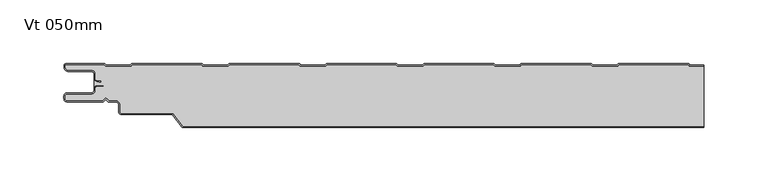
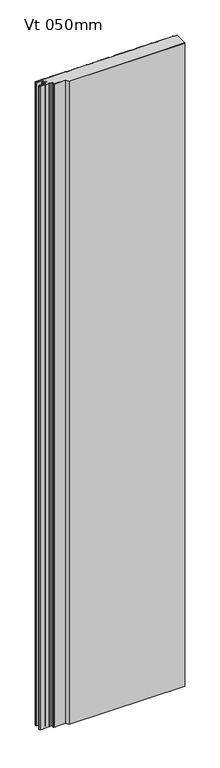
"""IFC4 building model written with IfcOpenShell, lengths in millimetres: plate geometry, KIP-MEX-KW-R19-CP-Vt-KW1_SL : Vt 050mm."""

import ifcopenshell
import ifcopenshell.guid

model = None  # the IFC model being written
_history = None  # IfcOwnerHistory: only IFC2X3 demands one
_inside = {}  # id of a spatial element -> (the spatial element, [elements in it])
_under = {}  # id of a project, library or spatial element -> (it, [spatial elements below it])
_declared = {}  # id of a project -> (the project, [libraries it declares])
_typed = {}  # id of a type object -> (the type object, [elements of that type])
_made_of = {}  # id of a material, layer set ... -> (it, [elements and type objects made of it])


def new_model(schema):
    """Start an empty IFC model of exactly this schema.

    Asked for "IFC4X3", IfcOpenShell would pick the latest addendum, in which some entities
    have other attributes; the version numbers below select the first issue.
    IFC2X3 requires an IfcOwnerHistory on every rooted entity: one is made here for all.
    """
    global model, _history
    if schema == "IFC4X3":
        model = ifcopenshell.file(schema_version=(4, 3, 0, 0))
    else:
        model = ifcopenshell.file(schema=schema)
    _inside.clear()
    _under.clear()
    _declared.clear()
    _typed.clear()
    _made_of.clear()
    _history = None
    if model.schema == "IFC2X3":
        org = make("IfcOrganization", Name="unknown")
        user = make(
            "IfcPersonAndOrganization",
            ThePerson=make("IfcPerson", FamilyName="unknown"),
            TheOrganization=org,
        )
        app = make(
            "IfcApplication",
            ApplicationDeveloper=org,
            Version="unknown",
            ApplicationFullName="unknown",
            ApplicationIdentifier="unknown",
        )
        _history = make(
            "IfcOwnerHistory",
            OwningUser=user,
            OwningApplication=app,
            ChangeAction="ADDED",
            CreationDate=0,
        )
    return model


def make(cls, **values):
    """One entity of the class cls with the attributes given. An attribute that is None is left unset."""
    return model.create_entity(
        cls, **{name: value for name, value in values.items() if value is not None}
    )


def rooted(cls, **values):
    """An entity with a GlobalId (a new one), such as an element, a storey or a relation."""
    return make(cls, GlobalId=ifcopenshell.guid.new(), OwnerHistory=_history, **values)


def si_unit(unit_type, name, prefix=None):
    """IfcSIUnit, for example si_unit("LENGTHUNIT", "METRE", prefix="MILLI")."""
    return make("IfcSIUnit", UnitType=unit_type, Prefix=prefix, Name=name)


def assignment(units):
    """IfcUnitAssignment: the units of a project."""
    return None if units is None else make("IfcUnitAssignment", Units=units)


def point(xyz):
    """IfcCartesianPoint."""
    return None if xyz is None else make("IfcCartesianPoint", Coordinates=xyz)


def direction(xyz):
    """IfcDirection."""
    return None if xyz is None else make("IfcDirection", DirectionRatios=xyz)


def frame(location, z_axis=None, x_axis=None):
    """IfcAxis2Placement3D, a coordinate frame: its origin and axes. An axis left out is left unset."""
    return make(
        "IfcAxis2Placement3D",
        Location=point(location),
        Axis=direction(z_axis),
        RefDirection=direction(x_axis),
    )


def frame_2d(location, x_axis=None):
    """IfcAxis2Placement2D, a coordinate frame in the plane: its origin and x axis."""
    return make(
        "IfcAxis2Placement2D", Location=point(location), RefDirection=direction(x_axis)
    )


def origin():
    """The frame at (0, 0, 0) with its axes left unset."""
    return frame((0.0, 0.0, 0.0))


def origin_with_axes():
    """The frame at (0, 0, 0) with the z axis (0, 0, 1) and the x axis (1, 0, 0) written out."""
    return frame((0.0, 0.0, 0.0), z_axis=(0.0, 0.0, 1.0), x_axis=(1.0, 0.0, 0.0))


def place(relative_to, where):
    """IfcLocalPlacement: puts the frame where relative to a parent placement (None: the world)."""
    return make(
        "IfcLocalPlacement", PlacementRelTo=relative_to, RelativePlacement=where
    )


def context(
    kind, dimensions, precision=None, world=None, true_north=None, identifier=None
):
    """IfcGeometricRepresentationContext, for example the 3D "Model" context."""
    return make(
        "IfcGeometricRepresentationContext",
        ContextIdentifier=identifier,
        ContextType=kind,
        CoordinateSpaceDimension=dimensions,
        Precision=precision,
        WorldCoordinateSystem=world,
        TrueNorth=true_north,
    )


def project(units=None, contexts=None):
    """IfcProject with its units and contexts."""
    return rooted(
        "IfcProject",
        Name="project",
        RepresentationContexts=contexts,
        UnitsInContext=assignment(units),
    )


def spatial(cls, under=None, at=None, **own):
    """A site, building, storey or space (cls), placed at a placement, below another one or the project."""
    s = rooted(cls, ObjectPlacement=at, **own)
    if under is not None:
        _under.setdefault(under.id(), (under, []))[1].append(s)
    return s


def polyline(points):
    """IfcPolyline through the points."""
    return make("IfcPolyline", Points=[point(p) for p in points])


def circle_curve(where, radius):
    """IfcCircle in the frame where."""
    return make("IfcCircle", Position=where, Radius=radius)


def trimmed(basis, trim1, trim2, sense, master):
    """IfcTrimmedCurve: the piece of a basis curve between two trims."""
    return make(
        "IfcTrimmedCurve",
        BasisCurve=basis,
        Trim1=trim1,
        Trim2=trim2,
        SenseAgreement=sense,
        MasterRepresentation=master,
    )


def segment(curve, same_sense, transition):
    """IfcCompositeCurveSegment."""
    return make(
        "IfcCompositeCurveSegment",
        Transition=transition,
        SameSense=same_sense,
        ParentCurve=curve,
    )


def composite_curve(segments, self_intersect=None):
    """IfcCompositeCurve: segments joined end to end."""
    return make("IfcCompositeCurve", Segments=segments, SelfIntersect=self_intersect)


def outline(outer, holes=None, kind="AREA"):
    """IfcArbitraryClosedProfileDef: a profile drawn as a closed curve; with holes, ...WithVoids."""
    if holes is None:
        return make("IfcArbitraryClosedProfileDef", ProfileType=kind, OuterCurve=outer)
    return make(
        "IfcArbitraryProfileDefWithVoids",
        ProfileType=kind,
        OuterCurve=outer,
        InnerCurves=holes,
    )


def extrude(swept, where, along, depth):
    """IfcExtrudedAreaSolid: the profile swept, set in the frame where, extruded along a direction by depth."""
    return make(
        "IfcExtrudedAreaSolid",
        SweptArea=swept,
        Position=where,
        ExtrudedDirection=direction(along),
        Depth=depth,
    )


def shape(context_of_items, identifier, shape_type, items):
    """IfcShapeRepresentation: the items that make up one representation, for example the "Body"."""
    return make(
        "IfcShapeRepresentation",
        ContextOfItems=context_of_items,
        RepresentationIdentifier=identifier,
        RepresentationType=shape_type,
        Items=items,
    )


def source(mapping_origin, context_of_items, identifier, shape_type, items):
    """IfcRepresentationMap: a shape defined once, which mapped items show again and again."""
    return make(
        "IfcRepresentationMap",
        MappingOrigin=mapping_origin,
        MappedRepresentation=shape(context_of_items, identifier, shape_type, items),
    )


def transform(
    local_origin,
    x_axis=None,
    y_axis=None,
    z_axis=None,
    scale=None,
    scale2=None,
    scale3=None,
    uniform=True,
):
    """IfcCartesianTransformationOperator3D, or its non-uniform kind. x_axis, y_axis, z_axis: its Axis1, 2, 3."""
    if uniform:
        return make(
            "IfcCartesianTransformationOperator3D",
            Axis1=direction(x_axis),
            Axis2=direction(y_axis),
            LocalOrigin=point(local_origin),
            Scale=scale,
            Axis3=direction(z_axis),
        )
    return make(
        "IfcCartesianTransformationOperator3DnonUniform",
        Axis1=direction(x_axis),
        Axis2=direction(y_axis),
        LocalOrigin=point(local_origin),
        Scale=scale,
        Axis3=direction(z_axis),
        Scale2=scale2,
        Scale3=scale3,
    )


def mapped(mapping_source, mapping_target):
    """IfcMappedItem: shows the shape of a source again, moved by a transform."""
    return make(
        "IfcMappedItem", MappingSource=mapping_source, MappingTarget=mapping_target
    )


def made_of(thing, what):
    """Note that an element or type object is made of a material, layer set ...; save() writes the relation."""
    if what is not None:
        _made_of.setdefault(what.id(), (what, []))[1].append(thing)
    return thing


def element(
    cls,
    number,
    at=None,
    inside=None,
    cuts=None,
    type_object=None,
    material=None,
    context=None,
    identifier="Body",
    shape_type=None,
    held_by="IfcProductDefinitionShape",
    body=None,
    shapes=None,
    **own,
):
    """One element of the class cls, such as IfcWall. Its Tag is "e" and its number.

    at: its placement. inside: the storey or other place that contains it. cuts: it is an
    opening in that element (IfcRelVoidsElement). A single representation is given by context,
    identifier, shape_type and body (its items); several are given by shapes. held_by: the class
    of the entity that holds the representations. save() writes the other relations.
    """
    e = rooted(cls, Tag="e%d" % number, ObjectPlacement=at, **own)
    if body is not None:
        shapes = [shape(context, identifier, shape_type, body)]
    if shapes is not None:
        e.Representation = make(held_by, Representations=shapes)
    if inside is not None:
        _inside.setdefault(inside.id(), (inside, []))[1].append(e)
    if cuts is not None:
        rooted(
            "IfcRelVoidsElement", RelatingBuildingElement=cuts, RelatedOpeningElement=e
        )
    if type_object is not None:
        _typed.setdefault(type_object.id(), (type_object, []))[1].append(e)
    return made_of(e, material)


def aggregate(whole, parts):
    """IfcRelAggregates: a whole, such as a stair, and the parts it consists of."""
    return rooted("IfcRelAggregates", RelatingObject=whole, RelatedObjects=parts)


def save(model, path):
    """Write the relations noted so far, then the file.

    IfcRelAggregates (storeys below a building ...), IfcRelContainedInSpatialStructure (elements
    in a storey), IfcRelDefinesByType, IfcRelAssociatesMaterial and IfcRelDeclares: one each for
    every whole, place, type object, material and project.
    """
    for whole, parts in _under.values():
        aggregate(whole, parts)
    for where, things in _inside.values():
        rooted(
            "IfcRelContainedInSpatialStructure",
            RelatedElements=things,
            RelatingStructure=where,
        )
    for kind, things in _typed.values():
        rooted("IfcRelDefinesByType", RelatedObjects=things, RelatingType=kind)
    for what, things in _made_of.values():
        rooted("IfcRelAssociatesMaterial", RelatedObjects=things, RelatingMaterial=what)
    for by, libraries in _declared.values():
        rooted("IfcRelDeclares", RelatingContext=by, RelatedDefinitions=libraries)
    model.write(path)


def vt_050mm_20076d70(model_context):
    return source(origin(), model_context, "Body", "SweptSolid", [
        extrude(outline(composite_curve([segment(polyline([(225.9039135, -2.1994992), (236.9739551, -2.1994992), (236.9739551, -49.0007512), (-170.3679967, -49.0007512), (-178.2758107, -38.8807501), (-218.2556822, -38.8807501)]), True, "CONTINUOUS"), segment(trimmed(circle_curve(frame_2d((-218.2060101, -37.3815743)), 1.4999984), [point((-218.2556822, -38.8807501))], [point((-219.7060085, -37.3815743))], False, "CARTESIAN"), True, "CONTINUOUS"), segment(polyline([(-219.7060085, -37.3815743), (-219.7060085, -31.8815682)]), True, "CONTINUOUS"), segment(trimmed(circle_curve(frame_2d((-222.7060141, -31.8815682)), 3.0000056), [point((-219.7060085, -31.8815682))], [point((-222.7060141, -28.8815626))], True, "CARTESIAN"), True, "CONTINUOUS"), segment(polyline([(-222.7060141, -28.8815626), (-228.2917754, -28.8815626), (-230.7060114, -26.4674051), (-233.1202474, -28.8817196), (-261.0062104, -28.8817196)]), True, "CONTINUOUS"), segment(trimmed(circle_curve(frame_2d((-261.0062104, -27.3814897)), 1.5002298), [point((-261.0062104, -28.8817196))], [point((-262.5064402, -27.3814897))], False, "CARTESIAN"), True, "CONTINUOUS"), segment(polyline([(-262.5064402, -27.3814897), (-262.5064402, -25.3983418)]), True, "CONTINUOUS"), segment(trimmed(circle_curve(frame_2d((-261.0055873, -25.3983418)), 1.5008529), [point((-262.5064402, -25.3983418))], [point((-261.0430722, -23.8979571))], False, "CARTESIAN"), True, "CONTINUOUS"), segment(polyline([(-261.0430722, -23.8979571), (-242.0059123, -23.8979571)]), True, "CONTINUOUS"), segment(trimmed(circle_curve(frame_2d((-242.0059123, -20.8966056)), 3.0013516), [point((-242.0059123, -23.8979571))], [point((-239.0056877, -20.8143642))], True, "CARTESIAN"), True, "CONTINUOUS"), segment(polyline([(-239.0056877, -20.8143642), (-239.0056877, -19.3893811)]), True, "CONTINUOUS"), segment(trimmed(circle_curve(frame_2d((-237.5051476, -19.3893811)), 1.5005402), [point((-239.0056877, -19.3893811))], [point((-237.5062722, -17.8888414))], False, "CARTESIAN"), True, "CONTINUOUS"), segment(polyline([(-237.5062722, -17.8888414), (-232.2480455, -17.8888414), (-232.2480455, -16.8719911), (-237.5115852, -16.8719911)]), True, "CONTINUOUS"), segment(trimmed(circle_curve(frame_2d((-237.5097191, -19.3622712)), 2.4902807), [point((-237.5115852, -16.8719911))], [point((-239.9999998, -19.3622712))], True, "CARTESIAN"), True, "CONTINUOUS"), segment(polyline([(-239.9999998, -19.3622712), (-239.9999998, -11.7956848)]), True, "CONTINUOUS"), segment(trimmed(circle_curve(frame_2d((-237.507267, -11.5959632)), 2.500721), [point((-239.9999998, -11.7956848))], [point((-237.9396711, -14.0590167))], True, "CARTESIAN"), True, "CONTINUOUS"), segment(polyline([(-237.9396711, -14.0590167), (-234.3973739, -14.6808886), (-234.2244628, -13.6959552), (-237.7667627, -13.0740827)]), True, "CONTINUOUS"), segment(trimmed(circle_curve(frame_2d((-237.5072716, -11.5959732)), 1.5007143), [point((-237.7667627, -13.0740827))], [point((-239.0079859, -11.5959732))], False, "CARTESIAN"), True, "CONTINUOUS"), segment(polyline([(-239.0079859, -11.5959732), (-239.0079859, -8.000131)]), True, "CONTINUOUS"), segment(trimmed(circle_curve(frame_2d((-242.0093089, -8.002219)), 3.0013237), [point((-239.0079859, -8.000131))], [point((-242.0093089, -5.0008953))], True, "CARTESIAN"), True, "CONTINUOUS"), segment(polyline([(-242.0093089, -5.0008953), (-260.0061347, -5.0008953)]), True, "CONTINUOUS"), segment(trimmed(circle_curve(frame_2d((-260.0061347, -2.5012654)), 2.4996299), [point((-260.0061347, -5.0008953))], [point((-262.5057646, -2.5012654))], False, "CARTESIAN"), True, "CONTINUOUS"), segment(polyline([(-262.5057646, -2.5012654), (-262.5057646, -1.0), (-232.0999194, -1.0), (-231.0133951, -2.1994992), (-211.0814168, -2.1994992), (-209.9948925, -1.0), (-155.9470346, -1.0), (-154.8605103, -2.1994992), (-134.928532, -2.1994992), (-133.8420077, -1.0), (-79.7941498, -1.0), (-78.7076256, -2.1994992), (-58.7756472, -2.1994992), (-57.689123, -1.0), (-3.6412651, -1.0), (-2.5547408, -2.1994992), (17.3772375, -2.1994992), (18.4637618, -1.0), (72.5116197, -1.0), (73.598144, -2.1994992), (93.5301223, -2.1994992), (94.6152208, -1.0), (148.6645044, -1.0), (149.7510287, -2.1994992), (169.683007, -2.1994992), (170.7695313, -1.0), (224.8173892, -1.0), (225.9039135, -2.1994992)]), True, "CONTINUOUS")], self_intersect=False)), origin_with_axes(), (0.0, 0.0, 1.0), 2400.0),
        extrude(outline(composite_curve([segment(polyline([(226.3473579, -1.1979254), (236.9739551, -1.1979254), (236.9739551, -2.1979254), (225.9039135, -2.1979254), (224.8173892, -0.9984262), (170.7695313, -0.9984262), (169.683007, -2.1979254), (149.7510287, -2.1979254), (148.6645044, -0.9984262), (94.6166466, -0.9984262), (93.5301223, -2.1979254), (73.598144, -2.1979254), (72.5116197, -0.9984262), (18.462336, -0.9984262), (17.3772375, -2.1979254), (-2.5547408, -2.1979254), (-3.6412651, -0.9984262), (-57.6905487, -0.9984262), (-58.7756472, -2.1979254), (-78.7076256, -2.1979254), (-79.7941498, -0.9984262), (-133.8434335, -0.9984262), (-134.928532, -2.1979254), (-154.8605103, -2.1979254), (-155.9470346, -0.9984262), (-209.9963182, -0.9984262), (-211.0814168, -2.1979254), (-231.0133951, -2.1979254), (-232.0999194, -0.9984262), (-262.5058795, -0.9984262), (-262.5058795, -2.4998352)]), True, "CONTINUOUS"), segment(trimmed(circle_curve(frame_2d((-260.0060773, -2.4998352)), 2.4998022), [point((-262.5058795, -2.4998352))], [point((-260.0060773, -4.9996374))], True, "CARTESIAN"), True, "CONTINUOUS"), segment(polyline([(-260.0060773, -4.9996374), (-242.0051314, -4.9996374)]), True, "CONTINUOUS"), segment(trimmed(circle_curve(frame_2d((-242.0051314, -8.0003457)), 3.0007082), [point((-242.0051314, -4.9996374))], [point((-239.0044239, -7.9982581))], False, "CARTESIAN"), True, "CONTINUOUS"), segment(polyline([(-239.0044239, -7.9982581), (-239.0044239, -11.5945268)]), True, "CONTINUOUS"), segment(trimmed(circle_curve(frame_2d((-237.504025, -11.5945268)), 1.5003989), [point((-239.0044239, -11.5945268))], [point((-237.7635333, -13.072313))], True, "CARTESIAN"), True, "CONTINUOUS"), segment(polyline([(-237.7635333, -13.072313), (-234.2214587, -13.694323), (-234.3944392, -14.679371), (-237.9367138, -14.0573259)]), True, "CONTINUOUS"), segment(trimmed(circle_curve(frame_2d((-237.5042133, -11.5944251)), 2.5005873), [point((-237.9367138, -14.0573259))], [point((-240.0048002, -11.5958995))], False, "CARTESIAN"), True, "CONTINUOUS"), segment(polyline([(-240.0048002, -11.5958995), (-240.0048002, -7.9987586)]), True, "CONTINUOUS"), segment(trimmed(circle_curve(frame_2d((-242.0053159, -8.0002578)), 2.0005162), [point((-240.0048002, -7.9987586))], [point((-242.0053159, -5.9997416))], True, "CARTESIAN"), True, "CONTINUOUS"), segment(polyline([(-242.0053159, -5.9997416), (-260.0060748, -5.9997416)]), True, "CONTINUOUS"), segment(trimmed(circle_curve(frame_2d((-260.0060748, -2.4998716)), 3.49987), [point((-260.0060748, -5.9997416))], [point((-263.5059449, -2.4998716))], False, "CARTESIAN"), True, "CONTINUOUS"), segment(polyline([(-263.5059449, -2.4998716), (-263.5059449, -1.4999879)]), True, "CONTINUOUS"), segment(trimmed(circle_curve(frame_2d((-262.0059812, -1.4999879)), 1.4999637), [point((-263.5059449, -1.4999879))], [point((-262.0059812, -2.42e-05))], False, "CARTESIAN"), True, "CONTINUOUS"), segment(polyline([(-262.0059812, -2.42e-05), (-231.6550494, -2.42e-05), (-230.5699507, -1.1979254), (-211.5248611, -1.1979254), (-210.4383368, 0.0), (-155.5021646, 0.0), (-154.4170659, -1.1979254), (-135.3719764, -1.1979254), (-134.2854521, 0.0), (-79.3492799, 0.0), (-78.2641812, -1.1979254), (-59.2190916, -1.1979254), (-58.1325673, 0.0), (-3.1963951, 0.0), (-2.1112964, -1.1979254), (16.9337932, -1.1979254), (18.0203174, 0.0), (72.9564896, 0.0), (74.0415883, -1.1979254), (93.0866779, -1.1979254), (94.1732022, 0.0), (149.1093744, 0.0), (150.1944731, -1.1979254), (169.2395627, -1.1979254), (170.326087, 0.0), (225.2622592, 0.0), (226.3473579, -1.1979254)]), True, "CONTINUOUS")], self_intersect=False)), origin_with_axes(), (0.0, 0.0, 1.0), 2400.0),
        extrude(outline(composite_curve([segment(polyline([(-170.3679967, -49.0), (236.9739551, -49.0), (236.9739551, -50.0), (-170.8556836, -50.0), (-178.7634976, -39.8799997), (-218.2556831, -39.8799997)]), True, "CONTINUOUS"), segment(trimmed(circle_curve(frame_2d((-218.2556831, -37.3800002)), 2.4999995), [point((-218.2556831, -39.8799997))], [point((-220.7556826, -37.3800002))], False, "CARTESIAN"), True, "CONTINUOUS"), segment(polyline([(-220.7556826, -37.3800002), (-220.7556826, -31.8799982)]), True, "CONTINUOUS"), segment(trimmed(circle_curve(frame_2d((-222.7556845, -31.8799982)), 2.0000019), [point((-220.7556826, -31.8799982))], [point((-222.7556845, -29.8799963))], True, "CARTESIAN"), True, "CONTINUOUS"), segment(polyline([(-222.7556845, -29.8799963), (-228.7556762, -29.8799963), (-230.7556836, -27.8800148), (-232.7556909, -29.8800481), (-261.0557492, -29.8800481)]), True, "CONTINUOUS"), segment(trimmed(circle_curve(frame_2d((-261.0557492, -27.3799723)), 2.5000758), [point((-261.0557492, -29.8800481))], [point((-263.555825, -27.3799723))], False, "CARTESIAN"), True, "CONTINUOUS"), segment(polyline([(-263.555825, -27.3799723), (-263.555825, -25.3973278)]), True, "CONTINUOUS"), segment(trimmed(circle_curve(frame_2d((-261.0555445, -25.3973278)), 2.5002804), [point((-263.555825, -25.3973278))], [point((-261.1039184, -22.8975153))], False, "CARTESIAN"), True, "CONTINUOUS"), segment(polyline([(-261.1039184, -22.8975153), (-242.0532981, -22.8975153)]), True, "CONTINUOUS"), segment(trimmed(circle_curve(frame_2d((-242.0532981, -20.8938887)), 2.0036267), [point((-242.0532981, -22.8975153))], [point((-240.049672, -20.8923871))], True, "CARTESIAN"), True, "CONTINUOUS"), segment(polyline([(-240.049672, -20.8923871), (-240.049672, -19.3606974)]), True, "CONTINUOUS"), segment(trimmed(circle_curve(frame_2d((-237.5593913, -19.3606974)), 2.4902807), [point((-240.049672, -19.3606974))], [point((-237.5612573, -16.8704173))], False, "CARTESIAN"), True, "CONTINUOUS"), segment(polyline([(-237.5612573, -16.8704173), (-232.2977177, -16.8704173), (-232.2977177, -17.8872675), (-237.5559443, -17.8872675)]), True, "CONTINUOUS"), segment(trimmed(circle_curve(frame_2d((-237.5548198, -19.3878073)), 1.5005402), [point((-237.5559443, -17.8872675))], [point((-239.0553599, -19.3878073))], True, "CARTESIAN"), True, "CONTINUOUS"), segment(polyline([(-239.0553599, -19.3878073), (-239.0553599, -20.8127904)]), True, "CONTINUOUS"), segment(trimmed(circle_curve(frame_2d((-242.0555845, -20.8950317)), 3.0013516), [point((-239.0553599, -20.8127904))], [point((-242.0555845, -23.8963833))], False, "CARTESIAN"), True, "CONTINUOUS"), segment(polyline([(-242.0555845, -23.8963833), (-261.0927444, -23.8963832)]), True, "CONTINUOUS"), segment(trimmed(circle_curve(frame_2d((-261.0552595, -25.396768)), 1.5008529), [point((-261.0927444, -23.8963832))], [point((-262.5561124, -25.396768))], True, "CARTESIAN"), True, "CONTINUOUS"), segment(polyline([(-262.5561124, -25.396768), (-262.5561124, -27.3799159)]), True, "CONTINUOUS"), segment(trimmed(circle_curve(frame_2d((-261.0558826, -27.3799159)), 1.5002298), [point((-262.5561124, -27.3799159))], [point((-261.0558826, -28.8801457))], True, "CARTESIAN"), True, "CONTINUOUS"), segment(polyline([(-261.0558826, -28.8801457), (-233.1699195, -28.8801457), (-230.7556836, -26.4658313), (-228.3414476, -28.8799888), (-222.7556863, -28.8799888)]), True, "CONTINUOUS"), segment(trimmed(circle_curve(frame_2d((-222.7556863, -31.8799944)), 3.0000057), [point((-222.7556863, -28.8799888))], [point((-219.7556807, -31.8799944))], False, "CARTESIAN"), True, "CONTINUOUS"), segment(polyline([(-219.7556807, -31.8799944), (-219.7556807, -37.3800005)]), True, "CONTINUOUS"), segment(trimmed(circle_curve(frame_2d((-218.2556822, -37.3800005)), 1.4999984), [point((-219.7556807, -37.3800005))], [point((-218.2556822, -38.8799989))], True, "CARTESIAN"), True, "CONTINUOUS"), segment(polyline([(-218.2556822, -38.8799989), (-178.2758107, -38.8799989), (-170.3679967, -49.0)]), True, "CONTINUOUS")], self_intersect=False)), origin_with_axes(), (0.0, 0.0, 1.0), 2400.0),
    ])


if __name__ == "__main__":
    model = new_model("IFC4")
    model_context = context("Model", 3, world=origin())
    ifc_project = project(units=[si_unit("LENGTHUNIT", "METRE", prefix="MILLI")], contexts=[model_context])
    site = spatial("IfcSite", under=ifc_project)
    building = spatial("IfcBuilding", under=site)
    placement = place(None, origin())
    vt_050mm_shape = vt_050mm_20076d70(model_context)
    element("IfcPlate", 1, ObjectType="KIP-MEX-KW-R19-CP-Vt-KW1_SL : Vt 050mm", at=placement, inside=building, context=model_context, shape_type="MappedRepresentation", body=[
        mapped(vt_050mm_shape, transform((0.0, 0.0, 0.0), x_axis=(1.0, 0.0, 0.0), y_axis=(0.0, 1.0, 0.0), z_axis=(0.0, 0.0, 1.0))),
    ])
    save(model, "model.ifc")
